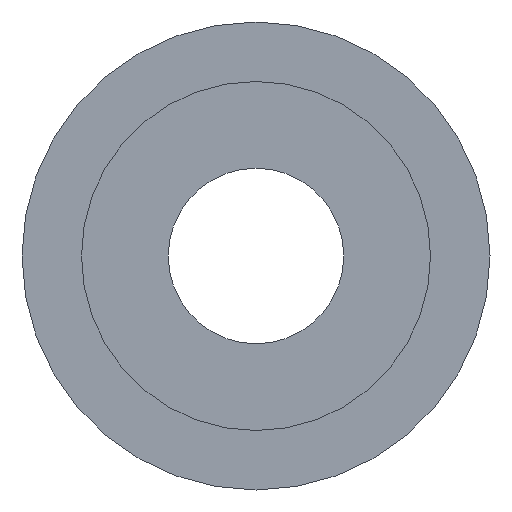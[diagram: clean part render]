
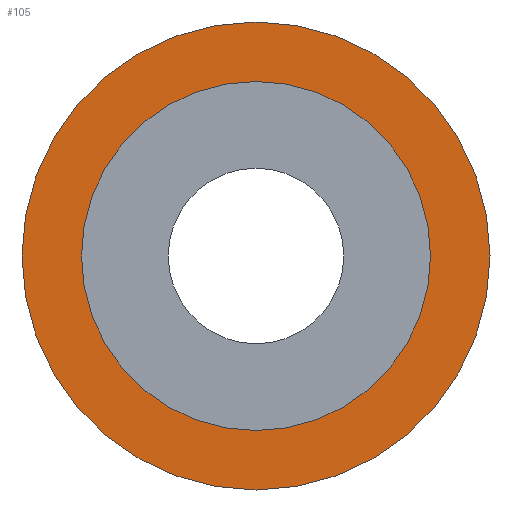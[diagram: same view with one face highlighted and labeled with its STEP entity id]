
A CAD part, left-side view. The second image highlights one B-rep face of the part: STEP entity #105.
In plain terms, the highlighted planar face has unit normal (-1, 0, 0).
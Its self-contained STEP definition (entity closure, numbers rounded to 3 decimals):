
#22 = VERTEX_POINT('',#23);
#23 = CARTESIAN_POINT('',(46.9,6.,0.));
#32 = CYLINDRICAL_SURFACE('',#33,6.);
#33 = AXIS2_PLACEMENT_3D('',#34,#35,#36);
#34 = CARTESIAN_POINT('',(46.9,0.,0.));
#35 = DIRECTION('',(-1.,-0.,-0.));
#36 = DIRECTION('',(0.,1.,0.));
#79 = EDGE_CURVE('',#22,#22,#80,.T.);
#80 = SURFACE_CURVE('',#81,(#86,#93),.PCURVE_S1.);
#81 = CIRCLE('',#82,6.);
#82 = AXIS2_PLACEMENT_3D('',#83,#84,#85);
#83 = CARTESIAN_POINT('',(46.9,0.,0.));
#84 = DIRECTION('',(1.,0.,0.));
#85 = DIRECTION('',(0.,1.,0.));
#86 = PCURVE('',#32,#87);
#87 = DEFINITIONAL_REPRESENTATION('',(#88),#92);
#88 = LINE('',#89,#90);
#89 = CARTESIAN_POINT('',(-0.,0.));
#90 = VECTOR('',#91,1.);
#91 = DIRECTION('',(-1.,0.));
#92 = ( GEOMETRIC_REPRESENTATION_CONTEXT(2) 
PARAMETRIC_REPRESENTATION_CONTEXT() REPRESENTATION_CONTEXT('2D SPACE',''
  ) );
#93 = PCURVE('',#94,#99);
#94 = PLANE('',#95);
#95 = AXIS2_PLACEMENT_3D('',#96,#97,#98);
#96 = CARTESIAN_POINT('',(46.9,0.,0.));
#97 = DIRECTION('',(1.,0.,0.));
#98 = DIRECTION('',(-0.,0.,1.));
#99 = DEFINITIONAL_REPRESENTATION('',(#100),#104);
#100 = CIRCLE('',#101,6.);
#101 = AXIS2_PLACEMENT_2D('',#102,#103);
#102 = CARTESIAN_POINT('',(0.,0.));
#103 = DIRECTION('',(0.,-1.));
#104 = ( GEOMETRIC_REPRESENTATION_CONTEXT(2) 
PARAMETRIC_REPRESENTATION_CONTEXT() REPRESENTATION_CONTEXT('2D SPACE',''
  ) );
#105 = ADVANCED_FACE('',(#106,#109),#94,.F.);
#106 = FACE_BOUND('',#107,.F.);
#107 = EDGE_LOOP('',(#108));
#108 = ORIENTED_EDGE('',*,*,#79,.T.);
#109 = FACE_BOUND('',#110,.F.);
#110 = EDGE_LOOP('',(#111));
#111 = ORIENTED_EDGE('',*,*,#112,.F.);
#112 = EDGE_CURVE('',#113,#113,#115,.T.);
#113 = VERTEX_POINT('',#114);
#114 = CARTESIAN_POINT('',(46.9,4.475,0.));
#115 = SURFACE_CURVE('',#116,(#121,#128),.PCURVE_S1.);
#116 = CIRCLE('',#117,4.475);
#117 = AXIS2_PLACEMENT_3D('',#118,#119,#120);
#118 = CARTESIAN_POINT('',(46.9,0.,0.));
#119 = DIRECTION('',(1.,0.,0.));
#120 = DIRECTION('',(0.,1.,0.));
#121 = PCURVE('',#94,#122);
#122 = DEFINITIONAL_REPRESENTATION('',(#123),#127);
#123 = CIRCLE('',#124,4.475);
#124 = AXIS2_PLACEMENT_2D('',#125,#126);
#125 = CARTESIAN_POINT('',(0.,0.));
#126 = DIRECTION('',(0.,-1.));
#127 = ( GEOMETRIC_REPRESENTATION_CONTEXT(2) 
PARAMETRIC_REPRESENTATION_CONTEXT() REPRESENTATION_CONTEXT('2D SPACE',''
  ) );
#128 = PCURVE('',#129,#134);
#129 = CYLINDRICAL_SURFACE('',#130,4.475);
#130 = AXIS2_PLACEMENT_3D('',#131,#132,#133);
#131 = CARTESIAN_POINT('',(36.9,0.,0.));
#132 = DIRECTION('',(-1.,-0.,-0.));
#133 = DIRECTION('',(0.,1.,0.));
#134 = DEFINITIONAL_REPRESENTATION('',(#135),#139);
#135 = LINE('',#136,#137);
#136 = CARTESIAN_POINT('',(-0.,-10.));
#137 = VECTOR('',#138,1.);
#138 = DIRECTION('',(-1.,0.));
#139 = ( GEOMETRIC_REPRESENTATION_CONTEXT(2) 
PARAMETRIC_REPRESENTATION_CONTEXT() REPRESENTATION_CONTEXT('2D SPACE',''
  ) );
